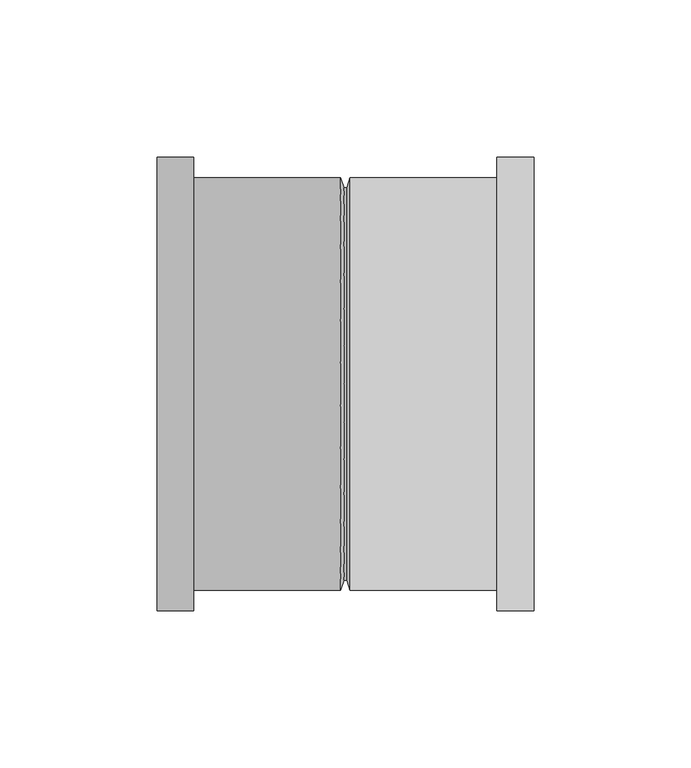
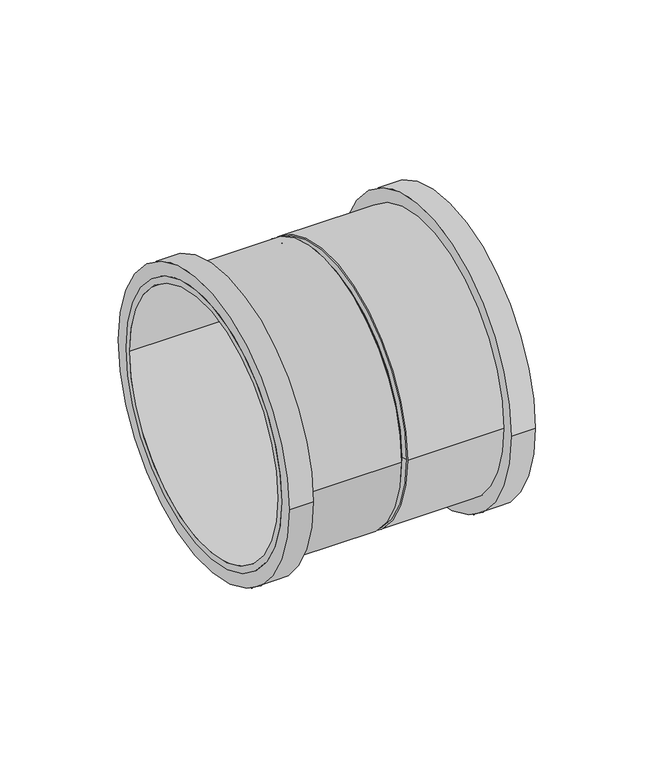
"""IFC4 building model written with IfcOpenShell, lengths in millimetres: pipe fitting geometry, Superdrain HTMM-Double socket : Superdrain HTMM-Double socket."""

from ifc_helpers import new_model, si_unit, point, frame, origin, origin_2d, place, context, project, spatial, polyline, circle_curve, trimmed, segment, composite_curve, outline, extrude, source, transform, mapped, element, save
from ifc_brep_helpers import plane_surface, revolved_surface, advanced_brep


def pipe_fitting_531c0b5e(model_context):
    return source(origin(), model_context, "Body", "SolidModel", [
        extrude(outline(composite_curve([segment(trimmed(circle_curve(origin_2d(), 65.625), [point((65.625, 0.0))], [point((-65.625, 0.0))], False, "CARTESIAN"), True, "CONTINUOUS"), segment(trimmed(circle_curve(origin_2d(), 65.625), [point((-65.625, 0.0))], [point((65.625, 0.0))], False, "CARTESIAN"), True, "CONTINUOUS")], self_intersect=False), holes=[composite_curve([segment(trimmed(circle_curve(origin_2d(), 62.5), [point((62.5, 0.0))], [point((-62.5, 0.0))], True, "CARTESIAN"), True, "CONTINUOUS"), segment(trimmed(circle_curve(origin_2d(), 62.5), [point((-62.5, 0.0))], [point((62.5, 0.0))], True, "CARTESIAN"), True, "CONTINUOUS")], self_intersect=False)]), frame((1.5, 0.0, 0.0), z_axis=(1.0, 0.0, 0.0), x_axis=(0.0, 1.0, 0.0)), (0.0, 0.0, 1.0), 58.5),
        extrude(outline(composite_curve([segment(trimmed(circle_curve(origin_2d(), 72.1875), [point((72.1875, 0.0))], [point((-72.1875, 0.0))], False, "CARTESIAN"), True, "CONTINUOUS"), segment(trimmed(circle_curve(origin_2d(), 72.1875), [point((-72.1875, 0.0))], [point((72.1875, 0.0))], False, "CARTESIAN"), True, "CONTINUOUS")], self_intersect=False), holes=[composite_curve([segment(trimmed(circle_curve(origin_2d(), 62.5), [point((62.5, 0.0))], [point((-62.5, 0.0))], True, "CARTESIAN"), True, "CONTINUOUS"), segment(trimmed(circle_curve(origin_2d(), 62.5), [point((-62.5, 0.0))], [point((62.5, 0.0))], True, "CARTESIAN"), True, "CONTINUOUS")], self_intersect=False)]), frame((48.3, 0.0, 0.0), z_axis=(1.0, 0.0, 0.0), x_axis=(0.0, 1.0, 0.0)), (0.0, 0.0, 1.0), 11.7),
        advanced_brep(
        [(0.5, 62.5, 0.0), (0.5, -62.5, 0.0), (1.5, 65.625, 0.0), (1.5, -65.625, 0.0)],
        [
            (0, 1, circle_curve(frame((0.5, 0.0, 0.0), z_axis=(-1.0, 0.0, 0.0), x_axis=(0.0, 1.0000000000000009, 0.0)), 62.5)),
            (1, 0, circle_curve(frame((0.5, 0.0, 0.0), z_axis=(-1.0, 0.0, 0.0), x_axis=(0.0, -1.0000000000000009, 0.0)), 62.5)),
            (2, 3, circle_curve(frame((1.5, 0.0, 0.0), z_axis=(1.0, 0.0, 0.0), x_axis=(0.0, -1.0000000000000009, 0.0)), 65.625)),
            (3, 2, circle_curve(frame((1.5, 0.0, 0.0), z_axis=(1.0, 0.0, 0.0), x_axis=(0.0, 1.0000000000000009, 0.0)), 65.625)),
            (3, 1),
            (0, 2),
        ],
        [
            plane_surface(frame((0.5, 0.0, 0.0), z_axis=(-1.0, 0.0, 0.0), x_axis=(0.0, 0.0, -1.0))),
            plane_surface(frame((1.5, 0.0, 0.0), z_axis=(1.0, 0.0, 0.0), x_axis=(0.0, 0.0, -1.0))),
            revolved_surface(polyline([(0.49999999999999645, 62.499999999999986, 0.0), (1.5, 65.625, 0.0)]), (-19.5, 0.0, 0.0), (1.0000000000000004, 0.0, 0.0)),
            revolved_surface(polyline([(0.49999999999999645, -62.499999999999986, 0.0), (1.5, -65.625, 0.0)]), (-19.5, 0.0, 0.0), (1.0000000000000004, 0.0, 0.0)),
        ],
        [
            (0, [[1, 2]]),
            (1, [[3, 4]]),
            (2, [[-4, 5, -1, 6]]),
            (3, [[-3, -6, -2, -5]]),
        ],
    ),
        extrude(outline(composite_curve([segment(trimmed(circle_curve(origin_2d(), 65.625), [point((-65.625, 0.0))], [point((65.625, 0.0))], False, "CARTESIAN"), True, "CONTINUOUS"), segment(trimmed(circle_curve(origin_2d(), 65.625), [point((65.625, 0.0))], [point((-65.625, 0.0))], False, "CARTESIAN"), True, "CONTINUOUS")], self_intersect=False), holes=[composite_curve([segment(trimmed(circle_curve(origin_2d(), 62.5), [point((-62.5, 0.0))], [point((62.5, 0.0))], True, "CARTESIAN"), True, "CONTINUOUS"), segment(trimmed(circle_curve(origin_2d(), 62.5), [point((62.5, 0.0))], [point((-62.5, 0.0))], True, "CARTESIAN"), True, "CONTINUOUS")], self_intersect=False)]), frame((-60.0, 0.0, 0.0), z_axis=(1.0, 0.0, 0.0), x_axis=(0.0, 1.0, 0.0)), (0.0, 0.0, 1.0), 58.5),
        extrude(outline(composite_curve([segment(trimmed(circle_curve(origin_2d(), 72.1875), [point((-72.1875, 0.0))], [point((72.1875, 0.0))], False, "CARTESIAN"), True, "CONTINUOUS"), segment(trimmed(circle_curve(origin_2d(), 72.1875), [point((72.1875, 0.0))], [point((-72.1875, 0.0))], False, "CARTESIAN"), True, "CONTINUOUS")], self_intersect=False), holes=[composite_curve([segment(trimmed(circle_curve(origin_2d(), 62.5), [point((-62.5, 0.0))], [point((62.5, 0.0))], True, "CARTESIAN"), True, "CONTINUOUS"), segment(trimmed(circle_curve(origin_2d(), 62.5), [point((62.5, 0.0))], [point((-62.5, 0.0))], True, "CARTESIAN"), True, "CONTINUOUS")], self_intersect=False)]), frame((-60.0, 0.0, 0.0), z_axis=(1.0, 0.0, 0.0), x_axis=(0.0, 1.0, 0.0)), (0.0, 0.0, 1.0), 11.7),
        advanced_brep(
        [(-0.5, -62.5, 0.0), (-0.5, 62.5, 0.0), (-1.5, -65.625, 0.0), (-1.5, 65.625, 0.0)],
        [
            (0, 1, circle_curve(frame((-0.5, 0.0, 0.0), z_axis=(1.0, 0.0, 0.0), x_axis=(0.0, -1.0, 0.0)), 62.5)),
            (1, 0, circle_curve(frame((-0.5, 0.0, 0.0), z_axis=(1.0, 0.0, 0.0), x_axis=(0.0, 1.0, 0.0)), 62.5)),
            (2, 3, circle_curve(frame((-1.5, 0.0, 0.0), z_axis=(-1.0, 0.0, 0.0), x_axis=(0.0, 1.0, 0.0)), 65.625)),
            (3, 2, circle_curve(frame((-1.5, 0.0, 0.0), z_axis=(-1.0, 0.0, 0.0), x_axis=(0.0, -1.0, 0.0)), 65.625)),
            (3, 1),
            (0, 2),
        ],
        [
            plane_surface(frame((-0.5, 0.0, 0.0), z_axis=(1.0, 0.0, 0.0), x_axis=(0.0, 0.0, -1.0))),
            plane_surface(frame((-1.5, 0.0, 0.0), z_axis=(-1.0, 0.0, 0.0), x_axis=(0.0, 0.0, -1.0))),
            revolved_surface(polyline([(-0.5, -62.5, 0.0), (-1.5, -65.625, 0.0)]), (19.5, 0.0, 0.0), (-1.0, 0.0, 0.0)),
            revolved_surface(polyline([(-0.5, 62.5, 0.0), (-1.5, 65.625, 0.0)]), (19.5, 0.0, 0.0), (-1.0, 0.0, 0.0)),
        ],
        [
            (0, [[1, 2]]),
            (1, [[3, 4]]),
            (2, [[-4, 5, -1, 6]]),
            (3, [[-3, -6, -2, -5]]),
        ],
    ),
        extrude(outline(composite_curve([segment(trimmed(circle_curve(origin_2d(), 62.5), [point((-62.5, 0.0))], [point((62.5, 0.0))], False, "CARTESIAN"), True, "CONTINUOUS"), segment(trimmed(circle_curve(origin_2d(), 62.5), [point((62.5, 0.0))], [point((-62.5, 0.0))], False, "CARTESIAN"), True, "CONTINUOUS")], self_intersect=False)), frame((-1.5, 0.0, 0.0), z_axis=(1.0, 0.0, 0.0), x_axis=(0.0, 1.0, 0.0)), (0.0, 0.0, 1.0), 3.0),
    ])


if __name__ == "__main__":
    model = new_model("IFC4")
    model_context = context("Model", 3, world=origin())
    ifc_project = project(units=[si_unit("LENGTHUNIT", "METRE", prefix="MILLI")], contexts=[model_context])
    site = spatial("IfcSite", under=ifc_project)
    building = spatial("IfcBuilding", under=site)
    placement = place(None, origin())
    pipe_fitting_shape = pipe_fitting_531c0b5e(model_context)
    element("IfcPipeFitting", 1, ObjectType="Superdrain HTMM-Double socket : Superdrain HTMM-Double socket", at=placement, inside=building, context=model_context, shape_type="MappedRepresentation", body=[
        mapped(pipe_fitting_shape, transform((0.0, 0.0, 0.0), x_axis=(1.0, 0.0, 0.0), y_axis=(0.0, 1.0, 0.0), z_axis=(0.0, 0.0, 1.0))),
    ])
    save(model, "model.ifc")
